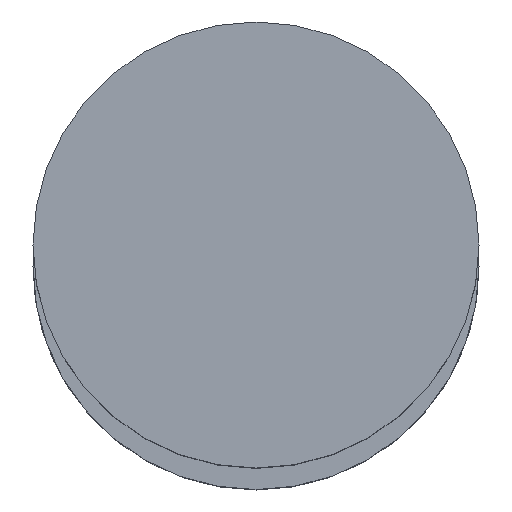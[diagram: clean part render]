
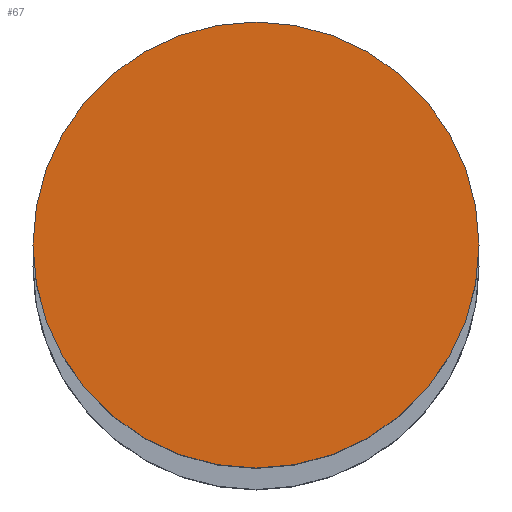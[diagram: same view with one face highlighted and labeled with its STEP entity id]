
A CAD part, top view. The second image highlights one B-rep face of the part: STEP entity #67.
In plain terms, the highlighted planar face has unit normal (0, 0, 1).
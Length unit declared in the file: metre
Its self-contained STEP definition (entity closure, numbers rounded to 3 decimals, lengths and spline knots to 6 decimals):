
#67=ADVANCED_FACE('0:57',(#136),#137,.F.);
#136=FACE_OUTER_BOUND('',#215,.T.);
#137=PLANE('',#216);
#215=EDGE_LOOP('',(#316,#317));
#216=AXIS2_PLACEMENT_3D('',#318,#319,#320);
#316=ORIENTED_EDGE('',*,*,#447,.F.);
#317=ORIENTED_EDGE('',*,*,#457,.F.);
#318=CARTESIAN_POINT('',(-0.000092,0.000095,3.594));
#319=DIRECTION('',(0.0,0.0,-1.0));
#320=DIRECTION('',(0.0,-1.0,0.0));
#447=EDGE_CURVE('0:63',#531,#527,#533,.T.);
#457=EDGE_CURVE('',#527,#531,#547,.T.);
#527=VERTEX_POINT('',#639);
#531=VERTEX_POINT('',#644);
#533=CIRCLE('',#647,0.0155);
#547=CIRCLE('',#663,0.0155);
#639=CARTESIAN_POINT('',(0.015408,0.000095,3.594));
#644=CARTESIAN_POINT('',(-0.015592,0.000095,3.594));
#647=AXIS2_PLACEMENT_3D('',#760,#761,#762);
#663=AXIS2_PLACEMENT_3D('',#777,#778,#779);
#760=CARTESIAN_POINT('',(-0.000092,0.000095,3.594));
#761=DIRECTION('',(0.0,0.0,-1.0));
#762=DIRECTION('',(1.0,0.0,0.0));
#777=CARTESIAN_POINT('',(-0.000092,0.000095,3.594));
#778=DIRECTION('',(0.0,0.0,-1.0));
#779=DIRECTION('',(1.0,0.0,0.0));
